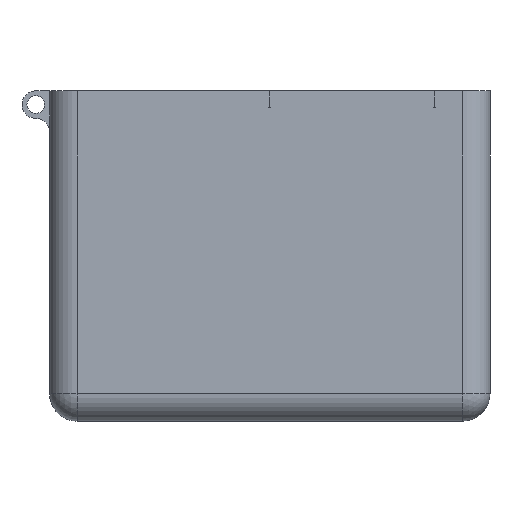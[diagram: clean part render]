
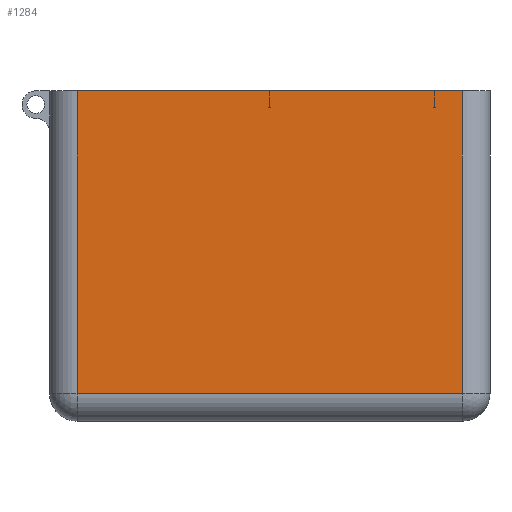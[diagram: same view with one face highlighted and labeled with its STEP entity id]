
A CAD part, left-side view. The second image highlights one B-rep face of the part: STEP entity #1284.
In plain terms, the highlighted planar face has unit normal (-1, 0, 0).
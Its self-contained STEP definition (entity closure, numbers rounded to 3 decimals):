
#24 = VECTOR ( 'NONE', #729, 1000. ) ;
#66 = EDGE_CURVE ( 'NONE', #3144, #156, #2289, .T. ) ;
#74 = CARTESIAN_POINT ( 'NONE',  ( -52.5, 35., 60. ) ) ;
#123 = LINE ( 'NONE', #74, #2729 ) ;
#156 = VERTEX_POINT ( 'NONE', #736 ) ;
#163 = DIRECTION ( 'NONE',  ( 0., -1., 0. ) ) ;
#179 = EDGE_LOOP ( 'NONE', ( #2888, #2286, #2624, #2560 ) ) ;
#304 = CARTESIAN_POINT ( 'NONE',  ( -52.5, 35., 60. ) ) ;
#374 = CARTESIAN_POINT ( 'NONE',  ( -52.5, -35., 5. ) ) ;
#408 = EDGE_CURVE ( 'NONE', #3144, #537, #123, .T. ) ;
#457 = CARTESIAN_POINT ( 'NONE',  ( -52.5, -40., 60. ) ) ;
#537 = VERTEX_POINT ( 'NONE', #2301 ) ;
#708 = CARTESIAN_POINT ( 'NONE',  ( -52.5, -35., 5. ) ) ;
#729 = DIRECTION ( 'NONE',  ( 0., -1., 0. ) ) ;
#736 = CARTESIAN_POINT ( 'NONE',  ( -52.5, -35., 60. ) ) ;
#744 = LINE ( 'NONE', #708, #24 ) ;
#1190 = DIRECTION ( 'NONE',  ( 1., 0., 0. ) ) ;
#1198 = LINE ( 'NONE', #2247, #2867 ) ;
#1201 = AXIS2_PLACEMENT_3D ( 'NONE', #3056, #1190, #1454 ) ;
#1284 = ADVANCED_FACE ( 'NONE', ( #2037 ), #2016, .F. ) ;
#1454 = DIRECTION ( 'NONE',  ( 0., 0., -1. ) ) ;
#1533 = VECTOR ( 'NONE', #163, 1000. ) ;
#1919 = EDGE_CURVE ( 'NONE', #537, #2156, #744, .T. ) ;
#2016 = PLANE ( 'NONE',  #1201 ) ;
#2037 = FACE_OUTER_BOUND ( 'NONE', #179, .T. ) ;
#2156 = VERTEX_POINT ( 'NONE', #374 ) ;
#2247 = CARTESIAN_POINT ( 'NONE',  ( -52.5, -35., 60. ) ) ;
#2286 = ORIENTED_EDGE ( 'NONE', *, *, #1919, .T. ) ;
#2289 = LINE ( 'NONE', #457, #1533 ) ;
#2301 = CARTESIAN_POINT ( 'NONE',  ( -52.5, 35., 5. ) ) ;
#2560 = ORIENTED_EDGE ( 'NONE', *, *, #66, .F. ) ;
#2624 = ORIENTED_EDGE ( 'NONE', *, *, #3320, .T. ) ;
#2729 = VECTOR ( 'NONE', #2750, 1000. ) ;
#2750 = DIRECTION ( 'NONE',  ( 0., 0., -1. ) ) ;
#2867 = VECTOR ( 'NONE', #3301, 1000. ) ;
#2888 = ORIENTED_EDGE ( 'NONE', *, *, #408, .T. ) ;
#3056 = CARTESIAN_POINT ( 'NONE',  ( -52.5, -40., 60. ) ) ;
#3144 = VERTEX_POINT ( 'NONE', #304 ) ;
#3301 = DIRECTION ( 'NONE',  ( 0., 0., 1. ) ) ;
#3320 = EDGE_CURVE ( 'NONE', #2156, #156, #1198, .T. ) ;
